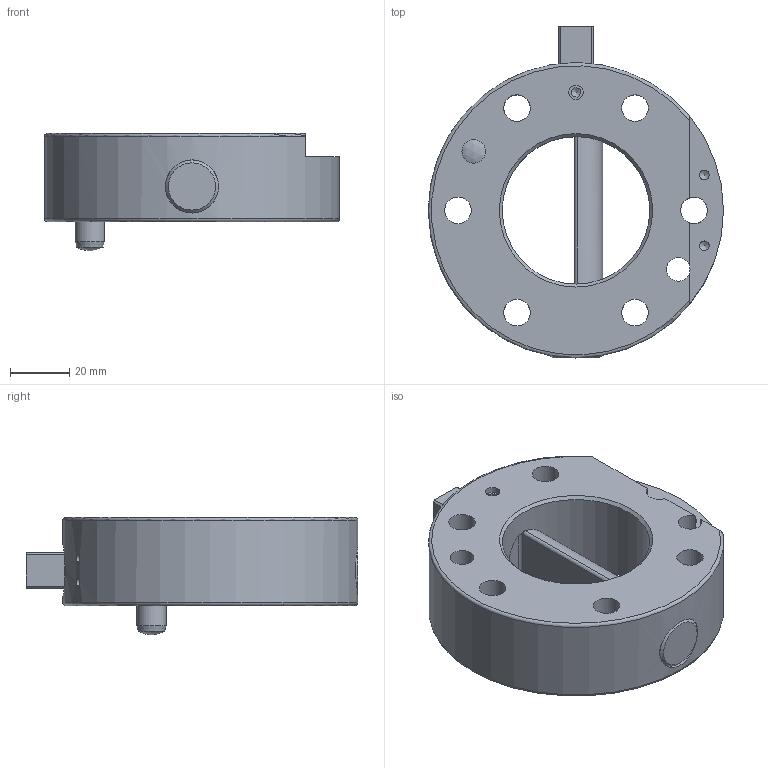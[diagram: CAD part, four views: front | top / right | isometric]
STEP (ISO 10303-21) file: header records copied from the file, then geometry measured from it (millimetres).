
FILE_DESCRIPTION((''),'2;1');
FILE_NAME('T:\CAD\Standard\Daten\3D-Datenbank\SWS\SWS100\step-Daten\G-SWS100-2OE.stp','2011-08-19T13:40:38',('Yvonne'),(''),'Autodesk Inventor 2011','Autodesk Inventor 2011','');
FILE_SCHEMA(('AUTOMOTIVE_DESIGN { 1 0 10303 214 1 1 1 1 }'));
Length unit declared in the file: millimetre
Products named in the file (1): Bauteil12
Bounding box: 100 x 112.5 x 39.75 mm (x, y, z)
Volume: 161331.3 mm3; surface area: 35504.8 mm2
Topology: 1 solids, 1 shells, 100 faces, 251 edges, 159 vertices
Faces by surface type: cylinder 47, plane 34, cone 9, bspline 4, torus 4, sphere 2
Full cylindrical faces by diameter (mm): 2.459 x2, 3.242 x2, 4 x1, 4.917 x3, 8 x2, 9 x6, 10 x1, 15 x6, 18 x1, 50 x1, 100 x1
Entity records: 3302 total; most frequent: CARTESIAN_POINT 1032, DIRECTION 436, ORIENTED_EDGE 390, EDGE_CURVE 195, AXIS2_PLACEMENT_3D 187, EDGE_LOOP 167, VERTEX_POINT 140, STYLED_ITEM 101
